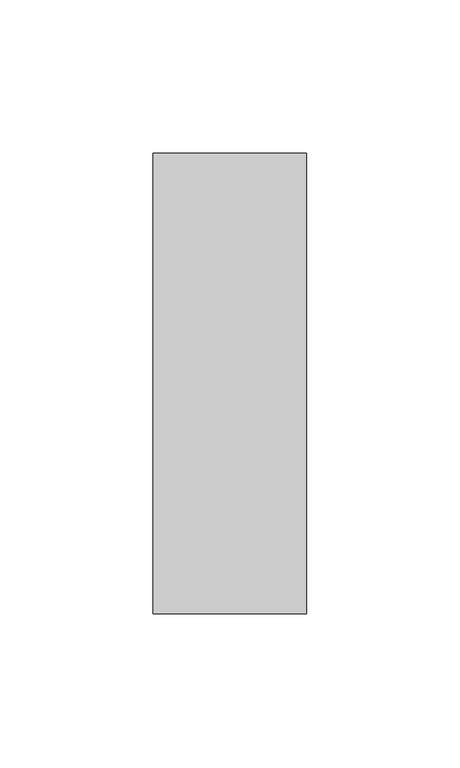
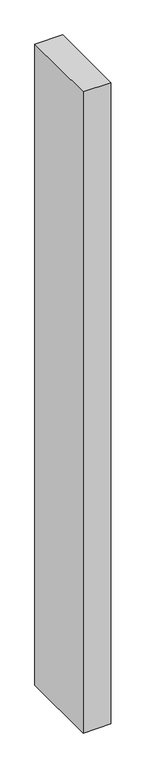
"""IFC4 building model written with IfcOpenShell, lengths in millimetres: member geometry, Прямоугольный импост : 50 x 150 мм."""

from ifc_helpers import new_model, si_unit, frame, origin, place, context, project, spatial, polyline, outline, extrude, source, transform, mapped, element, save


def member_a9d2a4db(model_context):
    return source(origin(), model_context, "Body", "SweptSolid", [
        extrude(outline(polyline([(25.0, 75.0), (25.0, -75.0), (-25.0, -75.0), (-25.0, 75.0), (25.0, 75.0)])), frame((0.0, 0.0, -1218.75), z_axis=(0.0, 0.0, 1.0), x_axis=(1.0, 0.0, 0.0)), (0.0, 0.0, 1.0), 1218.75),
    ])


if __name__ == "__main__":
    model = new_model("IFC4")
    model_context = context("Model", 3, world=origin())
    ifc_project = project(units=[si_unit("LENGTHUNIT", "METRE", prefix="MILLI")], contexts=[model_context])
    site = spatial("IfcSite", under=ifc_project)
    building = spatial("IfcBuilding", under=site)
    placement = place(None, origin())
    member_shape = member_a9d2a4db(model_context)
    element("IfcMember", 1, ObjectType="Прямоугольный импост : 50 x 150 мм", at=placement, inside=building, context=model_context, shape_type="MappedRepresentation", body=[
        mapped(member_shape, transform((0.0, 0.0, 0.0), x_axis=(1.0, 0.0, 0.0), y_axis=(0.0, 1.0, 0.0), z_axis=(0.0, 0.0, 1.0))),
    ])
    save(model, "model.ifc")
